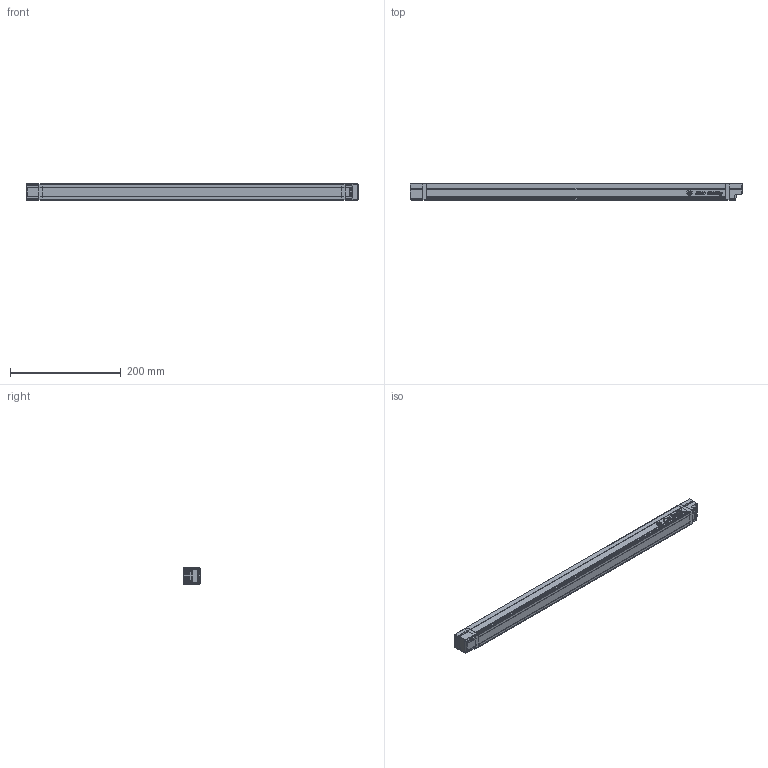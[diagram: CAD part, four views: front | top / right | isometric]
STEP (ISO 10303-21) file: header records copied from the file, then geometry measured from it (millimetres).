
FILE_DESCRIPTION((''),'2;1');
FILE_NAME('450L-B4XN0600YD','2017-04-01T',('SRao1'),('Rockwell Automation'),'PRO/ENGINEER BY PARAMETRIC TECHNOLOGY CORPORATION, 2012480','PRO/ENGINEER BY PARAMETRIC TECHNOLOGY CORPORATION, 2012480','');
FILE_SCHEMA(('CONFIG_CONTROL_DESIGN'));
Products named in the file (1): 450L-B4XN0600YD
Bounding box: 600 x 30 x 30.2 mm (x, y, z)
Volume: 144040.8 mm3; surface area: 149347.8 mm2
Topology: 1 solids, 48 shells, 3944 faces, 10720 edges, 7038 vertices
Faces by surface type: plane 2945, cylinder 740, bspline 139, cone 73, torus 26, sphere 21
Entity records: 129641 total; most frequent: CARTESIAN_POINT 30256, ORIENTED_EDGE 21376, DIRECTION 19306, EDGE_CURVE 10688, VECTOR 8728, LINE 8728, VERTEX_POINT 7037, AXIS2_PLACEMENT_3D 5289
